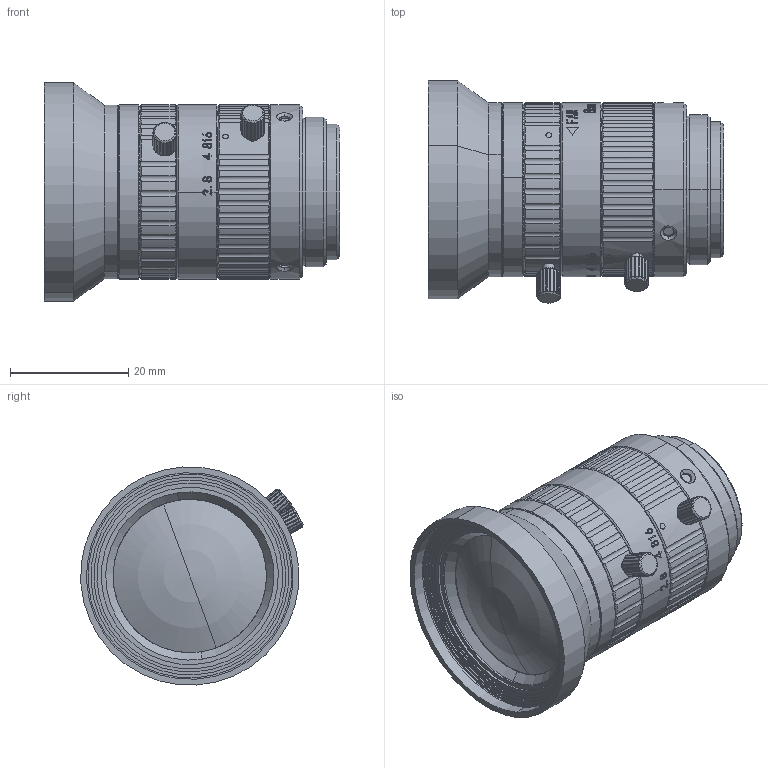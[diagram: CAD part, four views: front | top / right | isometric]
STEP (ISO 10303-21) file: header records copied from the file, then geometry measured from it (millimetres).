
FILE_DESCRIPTION (( 'STEP AP203' ), '1' );
FILE_NAME ('FAU0824MC.HR-H-无穷远.STEP', '2025-11-04T10:47:35', ( '' ), ( '' ), 'SwSTEP 2.0', 'SolidWorks 2019', '' );
FILE_SCHEMA (( 'CONFIG_CONTROL_DESIGN' ));
Length unit declared in the file: millimetre
Products named in the file (1): FAU0824MC.HR-H-无穷远
Bounding box: 50.06 x 37.67 x 36.93 mm (x, y, z)
Volume: 31754.1 mm3; surface area: 8843.1 mm2
Topology: 1 solids, 5 shells, 862 faces, 2292 edges, 1500 vertices
Faces by surface type: plane 339, cylinder 323, bspline 109, cone 83, sphere 8
Entity records: 43548 total; most frequent: CARTESIAN_POINT 23643, ORIENTED_EDGE 4572, DIRECTION 3509, EDGE_CURVE 2286, VERTEX_POINT 1498, AXIS2_PLACEMENT_3D 1428, B_SPLINE_CURVE_WITH_KNOTS 959, EDGE_LOOP 930
